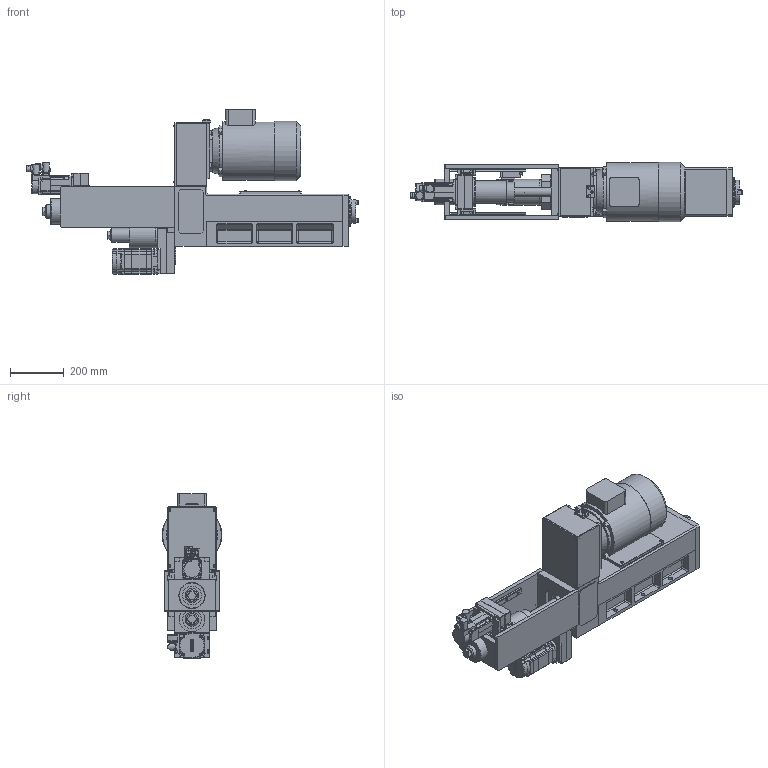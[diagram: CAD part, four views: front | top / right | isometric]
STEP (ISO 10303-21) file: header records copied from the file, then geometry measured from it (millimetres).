
FILE_DESCRIPTION(('STEP AP203'),'1');
FILE_NAME('C:/Users/Saverio/Desktop/FM 340 CNRC.stp','2015-05-16T10:08:32',(' '),(' '),'Spatial InterOp 3D',' ',' ');
FILE_SCHEMA(('CONFIG_CONTROL_DESIGN'));
Length unit declared in the file: millimetre
Products named in the file (73): Assem1; 1; 2; 3; 4; 5; 6; Gruppo spinta tirante; tappo supporto vite-1; supporto vite-1; coperchio 1 trasm. vite-1; coperchio 2 trasm. vite-1; piastra motore avanz.-1; Prolunga mandrino; pattino SR20TB-1; pattino SR20TB; Supporto; Campana; servomotor_nx310eap7000; servomotor_nx310eap7000_03; servomotor_nx310eap7000_02; servomotor_nx310eap7000_01; FM 340 CNRC; Assem2; 7; 8; 9; 10; 11; 12; 13; 14; 15; 16; 17; 18; 19; 20; 21; 22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
Assembly tree (72 placements, depth 5):
  FM 340 CNRC
    Assem1
      1
      2
      3
      4
      5
      6
      Gruppo spinta tirante
        tappo supporto vite-1
        supporto vite-1
        coperchio 1 trasm. vite-1
        coperchio 2 trasm. vite-1
        piastra motore avanz.-1
        Prolunga mandrino
        pattino SR20TB-1
        pattino SR20TB
        Supporto
        Campana
        servomotor_nx310eap7000
          servomotor_nx310eap7000_03
          servomotor_nx310eap7000_02
          servomotor_nx310eap7000_01
    Assem2
      7
      8
      9
      10
      11
      12
      13
      14
      15
      16
      17
      18
      19
      20
      21
      22
      23
      24
      25
      26
      27
      28
      29
      30
      31
      32
      33
      38
      gruppo spinta cannotto
        tappo supporto vite
        supporto vite
        piastra motore avanz.
        coperchio 1 trasm. vite
        coperchio 2 trasm. vite
        Assieme1
          40
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Bounding box: 1239.1 x 222 x 615.69 mm (x, y, z)
Volume: 41937703.4 mm3; surface area: 3344498.1 mm2
Topology: 65 solids, 65 shells, 2679 faces, 6797 edges, 4338 vertices
Faces by surface type: plane 1427, cylinder 820, cone 191, bspline 134, sphere 63, torus 44
Full cylindrical faces by diameter (mm): 1 x6, 2 x4, 3.242 x2, 4 x2, 4.5 x8, 5 x8, 5.5 x8, 6 x19, 6.5 x15, 6.637 x4, 6.647 x4, 7 x7, 8 x3, 8.366 x1, 9.5 x10, 9.87 x3, 10 x4, 10.25 x4, 10.5 x2, 11 x1, 14.5 x6, 15 x1, 18.3 x1, 19 x1, 19.2 x1, 20 x6, 21.7 x2, 22 x1, 22.4 x1, 22.7 x2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
Entity records: 97020 total; most frequent: CARTESIAN_POINT 31558, ORIENTED_EDGE 12564, DIRECTION 12549, EDGE_CURVE 6282, AXIS2_PLACEMENT_3D 4510, VERTEX_POINT 4247, LINE 3529, VECTOR 3529
